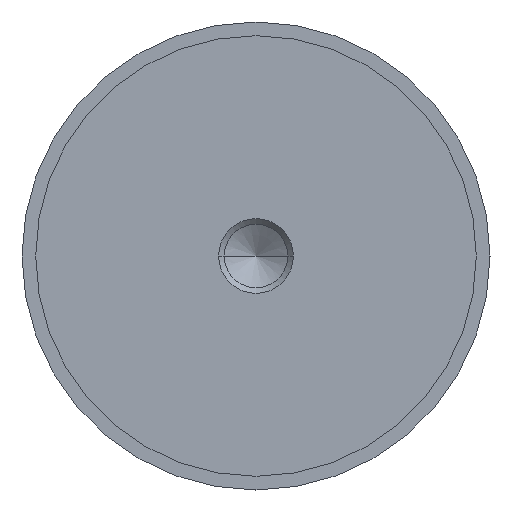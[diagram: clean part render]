
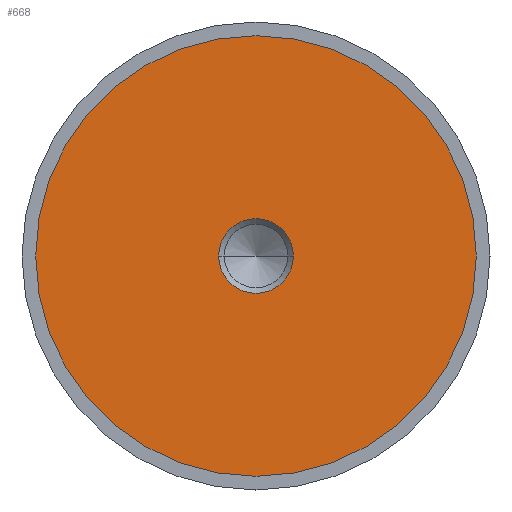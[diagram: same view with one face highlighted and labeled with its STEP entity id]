
A CAD part, left-side view. The second image highlights one B-rep face of the part: STEP entity #668.
In plain terms, the highlighted planar face has unit normal (-1, 0, 0).
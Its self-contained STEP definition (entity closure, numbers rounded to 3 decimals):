
#18 = PLANE ( 'NONE',  #65 ) ;
#65 = AXIS2_PLACEMENT_3D ( 'NONE', #246, #185, #410 ) ;
#80 = CARTESIAN_POINT ( 'NONE',  ( -19.99, 0., 35.3 ) ) ;
#134 = VERTEX_POINT ( 'NONE', #440 ) ;
#174 = CIRCLE ( 'NONE', #484, 5.99 ) ;
#185 = DIRECTION ( 'NONE',  ( 1., 0., 0. ) ) ;
#193 = ORIENTED_EDGE ( 'NONE', *, *, #287, .T. ) ;
#199 = ORIENTED_EDGE ( 'NONE', *, *, #719, .T. ) ;
#228 = ORIENTED_EDGE ( 'NONE', *, *, #605, .T. ) ;
#242 = CARTESIAN_POINT ( 'NONE',  ( -19.99, 0., 0. ) ) ;
#246 = CARTESIAN_POINT ( 'NONE',  ( -19.99, 35.3, 0. ) ) ;
#253 = DIRECTION ( 'NONE',  ( 0., 0., 1. ) ) ;
#287 = EDGE_CURVE ( 'NONE', #593, #134, #637, .T. ) ;
#296 = AXIS2_PLACEMENT_3D ( 'NONE', #636, #345, #299 ) ;
#299 = DIRECTION ( 'NONE',  ( 0., 0., -1. ) ) ;
#303 = FACE_OUTER_BOUND ( 'NONE', #521, .T. ) ;
#324 = CARTESIAN_POINT ( 'NONE',  ( -19.99, -5.99, 0. ) ) ;
#343 = VERTEX_POINT ( 'NONE', #324 ) ;
#345 = DIRECTION ( 'NONE',  ( 1., 0., 0. ) ) ;
#406 = EDGE_LOOP ( 'NONE', ( #421, #199 ) ) ;
#410 = DIRECTION ( 'NONE',  ( 0., 0., -1. ) ) ;
#417 = CARTESIAN_POINT ( 'NONE',  ( -19.99, 0., 0. ) ) ;
#421 = ORIENTED_EDGE ( 'NONE', *, *, #679, .T. ) ;
#428 = DIRECTION ( 'NONE',  ( 0., 0., -1. ) ) ;
#440 = CARTESIAN_POINT ( 'NONE',  ( -19.99, 0., -35.3 ) ) ;
#449 = CARTESIAN_POINT ( 'NONE',  ( -19.99, 5.99, 0. ) ) ;
#462 = VERTEX_POINT ( 'NONE', #449 ) ;
#463 = CIRCLE ( 'NONE', #296, 5.99 ) ;
#484 = AXIS2_PLACEMENT_3D ( 'NONE', #594, #492, #428 ) ;
#492 = DIRECTION ( 'NONE',  ( 1., 0., 0. ) ) ;
#496 = AXIS2_PLACEMENT_3D ( 'NONE', #242, #573, #583 ) ;
#521 = EDGE_LOOP ( 'NONE', ( #193, #228 ) ) ;
#573 = DIRECTION ( 'NONE',  ( -1., 0., 0. ) ) ;
#583 = DIRECTION ( 'NONE',  ( 0., 0., 1. ) ) ;
#593 = VERTEX_POINT ( 'NONE', #80 ) ;
#594 = CARTESIAN_POINT ( 'NONE',  ( -19.99, 0., 0. ) ) ;
#605 = EDGE_CURVE ( 'NONE', #134, #593, #697, .T. ) ;
#611 = AXIS2_PLACEMENT_3D ( 'NONE', #417, #645, #253 ) ;
#628 = FACE_BOUND ( 'NONE', #406, .T. ) ;
#636 = CARTESIAN_POINT ( 'NONE',  ( -19.99, 0., 0. ) ) ;
#637 = CIRCLE ( 'NONE', #611, 35.3 ) ;
#645 = DIRECTION ( 'NONE',  ( -1., 0., 0. ) ) ;
#668 = ADVANCED_FACE ( 'NONE', ( #628, #303 ), #18, .F. ) ;
#679 = EDGE_CURVE ( 'NONE', #343, #462, #463, .T. ) ;
#697 = CIRCLE ( 'NONE', #496, 35.3 ) ;
#719 = EDGE_CURVE ( 'NONE', #462, #343, #174, .T. ) ;
